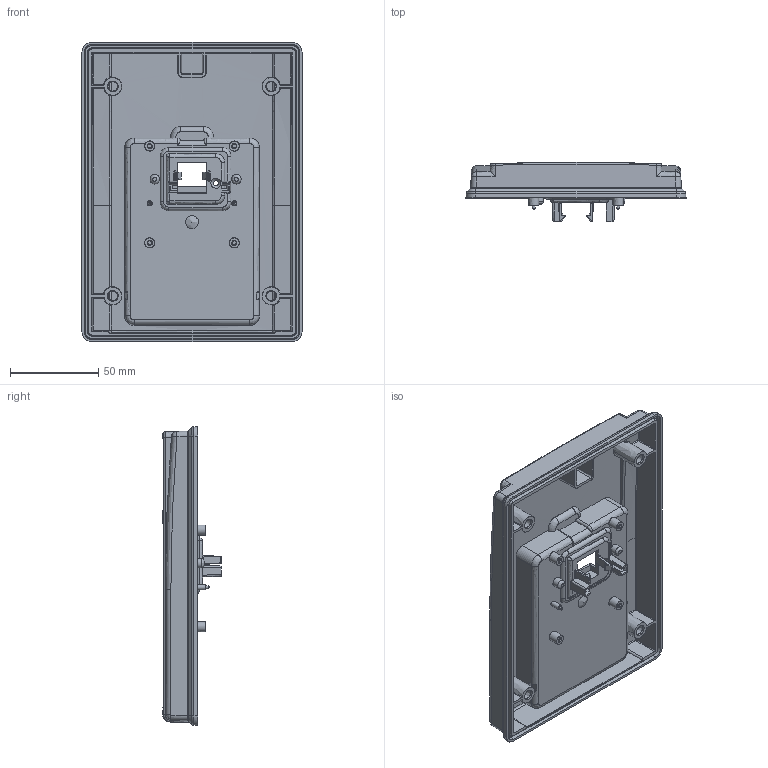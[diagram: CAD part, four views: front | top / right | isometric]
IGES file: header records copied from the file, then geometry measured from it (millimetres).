
Global section: file name: C:\WORK\PEKKINNARI\peki\.start\70CMR00291A_MR_Door_Panel_Base.igs; preprocessor: I-DEAS 3D IGES Translator 13; date: 20080922.073202; units: millimetre
Bounding box: 125 x 33.4 x 169.99 mm (x, y, z)
Volume: 106125.4 mm3; surface area: 79824.9 mm2
Topology: 1 solids, 1 shells, 769 faces, 1840 edges, 1078 vertices
Faces by surface type: bspline 769
